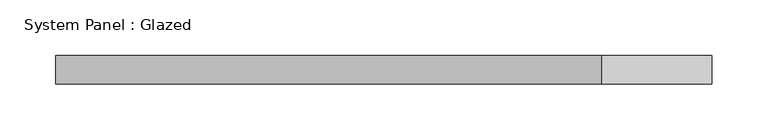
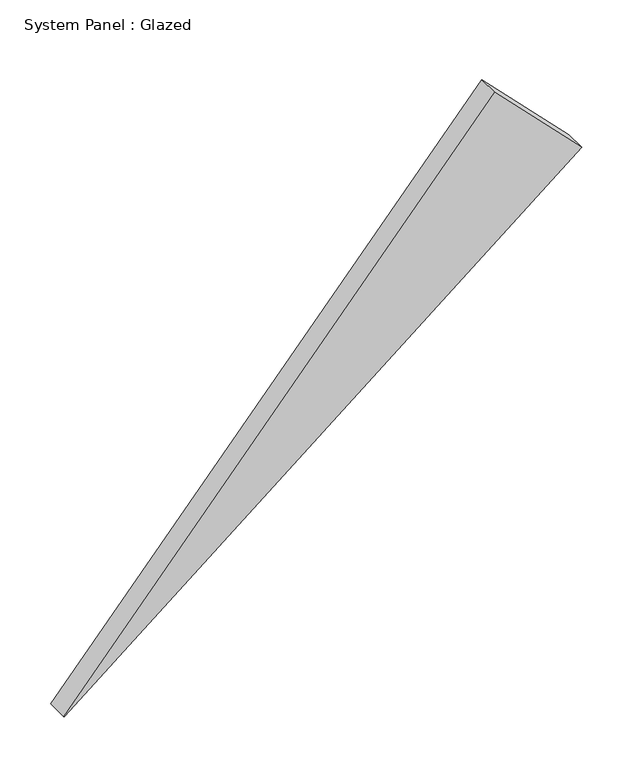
"""IFC4 building model written with IfcOpenShell, lengths in millimetres: plate geometry, System Panel : Glazed."""

from ifc_helpers import new_model, si_unit, frame, origin, place, context, project, spatial, polyline, outline, extrude, source, transform, mapped, element, save


def system_panel_glazed_0b8fe9c0(model_context):
    return source(origin(), model_context, "Body", "SweptSolid", [
        extrude(outline(polyline([(0.6045832, -294.0764378), (0.0, -293.4837122), (477.9744401, 294.0764378), (578.5831608, 195.4409359), (0.6045832, -294.0764378)])), frame((0.0, -44.45, 0.0), z_axis=(0.0, 1.0, 0.0), x_axis=(0.0, 0.0, 1.0)), (0.0, 0.0, 1.0), 25.4),
    ])


if __name__ == "__main__":
    model = new_model("IFC4")
    model_context = context("Model", 3, world=origin())
    ifc_project = project(units=[si_unit("LENGTHUNIT", "METRE", prefix="MILLI")], contexts=[model_context])
    site = spatial("IfcSite", under=ifc_project)
    building = spatial("IfcBuilding", under=site)
    placement = place(None, origin())
    system_panel_glazed_shape = system_panel_glazed_0b8fe9c0(model_context)
    element("IfcPlate", 1, ObjectType="System Panel : Glazed", at=placement, inside=building, context=model_context, shape_type="MappedRepresentation", body=[
        mapped(system_panel_glazed_shape, transform((0.0, 0.0, 0.0), x_axis=(1.0, 0.0, 0.0), y_axis=(0.0, 1.0, 0.0), z_axis=(0.0, 0.0, 1.0))),
    ])
    save(model, "model.ifc")
